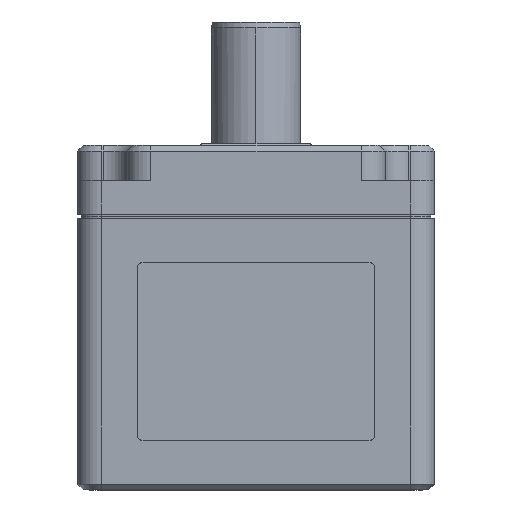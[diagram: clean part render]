
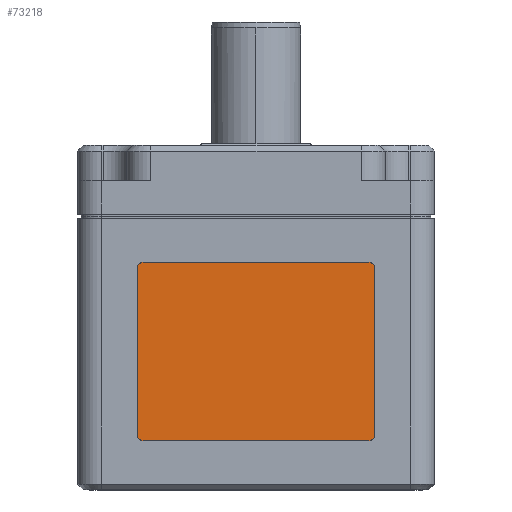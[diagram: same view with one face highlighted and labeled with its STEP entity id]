
A CAD part, left-side view. The second image highlights one B-rep face of the part: STEP entity #73218.
In plain terms, the highlighted planar face has unit normal (-1, 0, 0).
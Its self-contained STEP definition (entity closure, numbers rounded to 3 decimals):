
#5801 = VERTEX_POINT ( 'NONE', #411390 ) ;
#19347 = ORIENTED_EDGE ( 'NONE', *, *, #297250, .T. ) ;
#55364 = CIRCLE ( 'NONE', #285753, 0.5 ) ;
#62866 = LINE ( 'NONE', #65903, #298303 ) ;
#64093 = ORIENTED_EDGE ( 'NONE', *, *, #211960, .T. ) ;
#65903 = CARTESIAN_POINT ( 'NONE',  ( -29.8, -10., 4.15 ) ) ;
#71513 = ORIENTED_EDGE ( 'NONE', *, *, #117361, .T. ) ;
#73218 = ADVANCED_FACE ( 'NONE', ( #390977 ), #152695, .F. ) ;
#81009 = CARTESIAN_POINT ( 'NONE',  ( -29.8, 9.5, 18.65 ) ) ;
#105612 = CARTESIAN_POINT ( 'NONE',  ( -29.8, 0., 0. ) ) ;
#108155 = DIRECTION ( 'NONE',  ( 0., -1., 0. ) ) ;
#117361 = EDGE_CURVE ( 'NONE', #563239, #191730, #252433, .T. ) ;
#121432 = ORIENTED_EDGE ( 'NONE', *, *, #220172, .T. ) ;
#141474 = VERTEX_POINT ( 'NONE', #225713 ) ;
#152695 = PLANE ( 'NONE',  #193367 ) ;
#156337 = VECTOR ( 'NONE', #108155, 1000. ) ;
#170648 = CARTESIAN_POINT ( 'NONE',  ( -29.8, -9.5, 18.65 ) ) ;
#189723 = CARTESIAN_POINT ( 'NONE',  ( -29.8, -9.5, 19.15 ) ) ;
#191730 = VERTEX_POINT ( 'NONE', #218829 ) ;
#193089 = CARTESIAN_POINT ( 'NONE',  ( -29.8, 9.5, 19.15 ) ) ;
#193367 = AXIS2_PLACEMENT_3D ( 'NONE', #105612, #297181, #474824 ) ;
#197013 = CARTESIAN_POINT ( 'NONE',  ( -29.8, -10., 18.65 ) ) ;
#199035 = CIRCLE ( 'NONE', #539138, 0.5 ) ;
#211960 = EDGE_CURVE ( 'NONE', #191730, #141474, #241866, .T. ) ;
#218829 = CARTESIAN_POINT ( 'NONE',  ( -29.8, -9.5, 4.15 ) ) ;
#220172 = EDGE_CURVE ( 'NONE', #246164, #5801, #55364, .T. ) ;
#225713 = CARTESIAN_POINT ( 'NONE',  ( -29.8, -10., 4.65 ) ) ;
#237185 = EDGE_CURVE ( 'NONE', #561937, #563239, #431514, .T. ) ;
#241866 = CIRCLE ( 'NONE', #592142, 0.5 ) ;
#242105 = ORIENTED_EDGE ( 'NONE', *, *, #554145, .T. ) ;
#246164 = VERTEX_POINT ( 'NONE', #193089 ) ;
#252433 = LINE ( 'NONE', #540652, #156337 ) ;
#263160 = EDGE_LOOP ( 'NONE', ( #71513, #64093, #242105, #552011, #467613, #121432, #19347, #608540 ) ) ;
#269032 = DIRECTION ( 'NONE',  ( 0., 0., -1. ) ) ;
#271378 = AXIS2_PLACEMENT_3D ( 'NONE', #557066, #610284, #269032 ) ;
#272516 = DIRECTION ( 'NONE',  ( -1., 0., 0. ) ) ;
#285081 = DIRECTION ( 'NONE',  ( 0., 0., -1. ) ) ;
#285753 = AXIS2_PLACEMENT_3D ( 'NONE', #81009, #272516, #463629 ) ;
#291559 = CARTESIAN_POINT ( 'NONE',  ( -29.8, 10., 4.15 ) ) ;
#297181 = DIRECTION ( 'NONE',  ( 1., 0., 0. ) ) ;
#297250 = EDGE_CURVE ( 'NONE', #5801, #561937, #344552, .T. ) ;
#298303 = VECTOR ( 'NONE', #592541, 1000. ) ;
#311972 = DIRECTION ( 'NONE',  ( 0., 0., -1. ) ) ;
#331296 = LINE ( 'NONE', #387583, #441268 ) ;
#339372 = EDGE_CURVE ( 'NONE', #473556, #610028, #199035, .T. ) ;
#344552 = LINE ( 'NONE', #291559, #498291 ) ;
#349613 = DIRECTION ( 'NONE',  ( -1., 0., 0. ) ) ;
#387583 = CARTESIAN_POINT ( 'NONE',  ( -29.8, -10., 19.15 ) ) ;
#390977 = FACE_OUTER_BOUND ( 'NONE', #263160, .T. ) ;
#411390 = CARTESIAN_POINT ( 'NONE',  ( -29.8, 10., 18.65 ) ) ;
#416579 = CARTESIAN_POINT ( 'NONE',  ( -29.8, -9.5, 4.65 ) ) ;
#431514 = CIRCLE ( 'NONE', #271378, 0.5 ) ;
#433180 = CARTESIAN_POINT ( 'NONE',  ( -29.8, 10., 4.65 ) ) ;
#434643 = DIRECTION ( 'NONE',  ( 0., 1., 0. ) ) ;
#441268 = VECTOR ( 'NONE', #434643, 1000. ) ;
#463629 = DIRECTION ( 'NONE',  ( 0., 0., -1. ) ) ;
#467613 = ORIENTED_EDGE ( 'NONE', *, *, #569730, .T. ) ;
#473556 = VERTEX_POINT ( 'NONE', #197013 ) ;
#474824 = DIRECTION ( 'NONE',  ( 0., 0., -1. ) ) ;
#485699 = DIRECTION ( 'NONE',  ( 0., 0., -1. ) ) ;
#498291 = VECTOR ( 'NONE', #485699, 1000. ) ;
#539138 = AXIS2_PLACEMENT_3D ( 'NONE', #170648, #349613, #311972 ) ;
#540652 = CARTESIAN_POINT ( 'NONE',  ( -29.8, -10., 4.15 ) ) ;
#552011 = ORIENTED_EDGE ( 'NONE', *, *, #339372, .T. ) ;
#554145 = EDGE_CURVE ( 'NONE', #141474, #473556, #62866, .T. ) ;
#557066 = CARTESIAN_POINT ( 'NONE',  ( -29.8, 9.5, 4.65 ) ) ;
#561937 = VERTEX_POINT ( 'NONE', #433180 ) ;
#563239 = VERTEX_POINT ( 'NONE', #566329 ) ;
#566329 = CARTESIAN_POINT ( 'NONE',  ( -29.8, 9.5, 4.15 ) ) ;
#569730 = EDGE_CURVE ( 'NONE', #610028, #246164, #331296, .T. ) ;
#592142 = AXIS2_PLACEMENT_3D ( 'NONE', #416579, #607698, #285081 ) ;
#592541 = DIRECTION ( 'NONE',  ( 0., 0., 1. ) ) ;
#607698 = DIRECTION ( 'NONE',  ( -1., 0., 0. ) ) ;
#608540 = ORIENTED_EDGE ( 'NONE', *, *, #237185, .T. ) ;
#610028 = VERTEX_POINT ( 'NONE', #189723 ) ;
#610284 = DIRECTION ( 'NONE',  ( -1., 0., 0. ) ) ;
